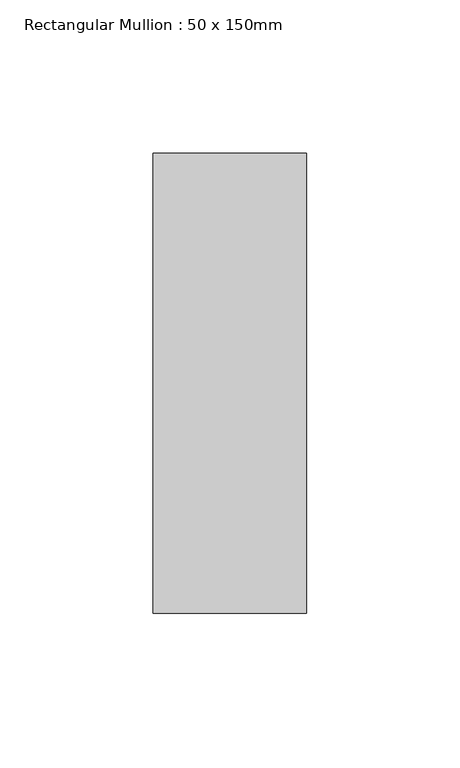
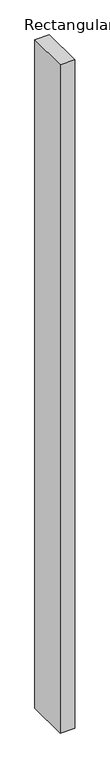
"""IFC4 building model written with IfcOpenShell, lengths in millimetres: member geometry, Rectangular Mullion : 50 x 150mm."""

from ifc_helpers import new_model, si_unit, frame, origin, place, context, project, spatial, polyline, outline, extrude, source, transform, mapped, element, save


def rectangular_mullion_50_x_150mm_96efe59e(model_context):
    return source(origin(), model_context, "Body", "SweptSolid", [
        extrude(outline(polyline([(25.0, 75.0), (25.0, -75.0), (-25.0, -75.0), (-25.0, 75.0), (25.0, 75.0)])), frame((0.0, 0.0, -2428.9532654), z_axis=(0.0, 0.0, 1.0), x_axis=(1.0, 0.0, 0.0)), (0.0, 0.0, 1.0), 2428.9532654),
    ])


if __name__ == "__main__":
    model = new_model("IFC4")
    model_context = context("Model", 3, world=origin())
    ifc_project = project(units=[si_unit("LENGTHUNIT", "METRE", prefix="MILLI")], contexts=[model_context])
    site = spatial("IfcSite", under=ifc_project)
    building = spatial("IfcBuilding", under=site)
    placement = place(None, origin())
    rectangular_mullion_50_x_150mm_shape = rectangular_mullion_50_x_150mm_96efe59e(model_context)
    element("IfcMember", 1, ObjectType="Rectangular Mullion : 50 x 150mm", at=placement, inside=building, context=model_context, shape_type="MappedRepresentation", body=[
        mapped(rectangular_mullion_50_x_150mm_shape, transform((0.0, 0.0, 0.0), x_axis=(1.0, 0.0, 0.0), y_axis=(0.0, 1.0, 0.0), z_axis=(0.0, 0.0, 1.0))),
    ])
    save(model, "model.ifc")
